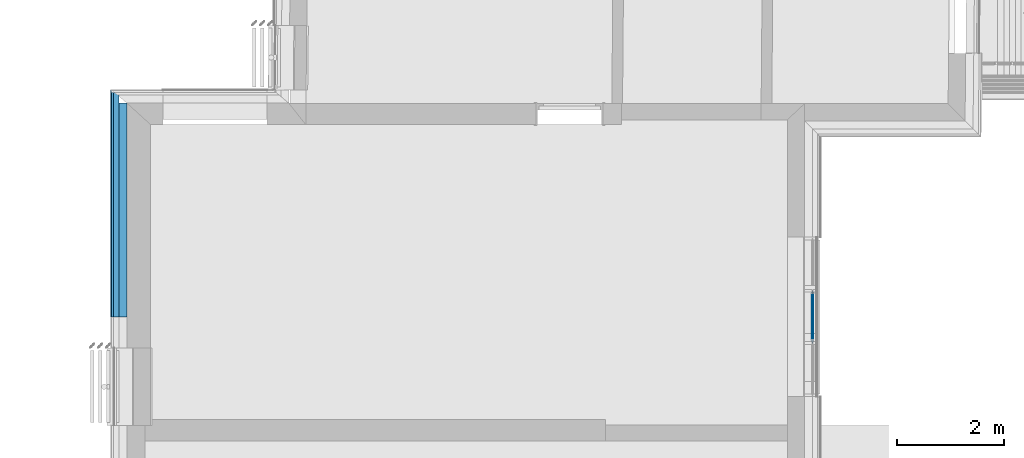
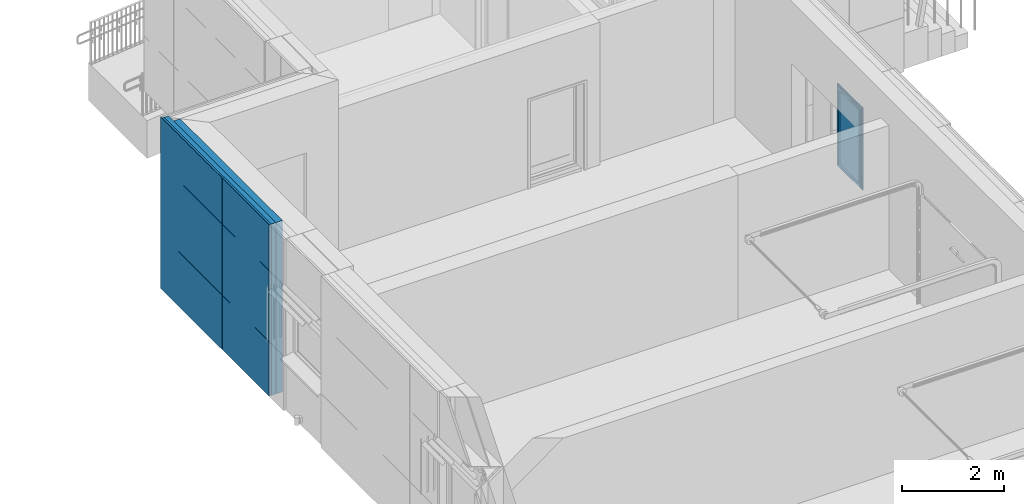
# One storey, part 130 of 418: 6 building element parts, 8 openings, 3 elements without a shape of their own.
"""IFC2X3 building model written with IfcOpenShell, lengths in millimetres."""

from ifc_helpers import new_model, entity, si_unit, converted_unit, derived_unit, money_unit, direction, frame, origin_with_axes, place, context, subcontext, project, spatial, polyline, outline, extrude, boolean, faceted_brep, material, type_object, element, aggregate, save


model = new_model("IFC2X3")

# Units and contexts
model_context = context("Model", 3, precision=0.01, world=origin_with_axes(), true_north=direction((0.0, 1.0)))
body_context = subcontext(model_context, "Body", "Model", "MODEL_VIEW")
ifc_project = project(units=[si_unit("LENGTHUNIT", "METRE", prefix="MILLI"), si_unit("AREAUNIT", "SQUARE_METRE"), si_unit("VOLUMEUNIT", "CUBIC_METRE"), converted_unit("PLANEANGLEUNIT", "DEGREE", entity("IfcPlaneAngleMeasure", 0.0174532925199), si_unit("PLANEANGLEUNIT", "RADIAN"), dimensions=[0, 0, 0, 0, 0, 0, 0]), si_unit("SOLIDANGLEUNIT", "STERADIAN"), money_unit("EUR"), converted_unit("TIMEUNIT", "Year", entity("IfcTimeMeasure", 31556926.0), si_unit("TIMEUNIT", "SECOND"), dimensions=[0, 0, 1, 0, 0, 0, 0]), si_unit("MASSUNIT", "GRAM", prefix="KILO"), si_unit("THERMODYNAMICTEMPERATUREUNIT", "DEGREE_CELSIUS"), si_unit("LUMINOUSINTENSITYUNIT", "LUMEN"), si_unit("ENERGYUNIT", "JOULE", prefix="MEGA"), derived_unit("THERMALCONDUCTANCEUNIT", [(si_unit("POWERUNIT", "WATT"), 1), (si_unit("LENGTHUNIT", "METRE"), -1), (si_unit("THERMODYNAMICTEMPERATUREUNIT", "KELVIN"), -1)]), derived_unit("SPECIFICHEATCAPACITYUNIT", [(si_unit("ENERGYUNIT", "JOULE"), 1), (si_unit("MASSUNIT", "GRAM", prefix="KILO"), -1), (si_unit("THERMODYNAMICTEMPERATUREUNIT", "KELVIN"), -1)]), derived_unit("MASSDENSITYUNIT", [(si_unit("MASSUNIT", "GRAM", prefix="KILO"), 1), (si_unit("VOLUMEUNIT", "CUBIC_METRE"), -1)])], contexts=[model_context])

# Site, building, storey
site_placement = place(None, origin_with_axes())
site = spatial("IfcSite", under=ifc_project, at=site_placement, Name="Paldiski mnt 245/1, Tallinn, Harjumaa", CompositionType="COMPLEX")
building_placement = place(site_placement, origin_with_axes())
building = spatial("IfcBuilding", under=site, at=building_placement, Name="RKAS Hoone üldnimetus (kasutust iseloomustav) -> IFC Project Manager -> SOLIBRI", CompositionType="ELEMENT")
storey_placement = place(building_placement, origin_with_axes())
storey = spatial("IfcBuildingStorey", under=building, at=storey_placement, Name="Esimene korrus", CompositionType="ELEMENT", Elevation=0.0)

# Wall, openings, building element parts
wall_type = type_object("IfcWallType", Name="VS-03I_uuedkihid 300", PredefinedType="NOTDEFINED")
wall_placement = place(storey_placement, frame((-62730.0, 26151.1196988, 0.0), z_axis=(0.0, 0.0, 1.0), x_axis=(0.0, 1.0, 0.0)))
wall = element("IfcWall", 1, at=wall_placement, inside=storey, type_object=wall_type, Name="VS-03")
opening_1_placement = place(wall_placement, frame((628.211364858, 0.0, 0.0), z_axis=(0.0, 0.0, 1.0), x_axis=(1.0, 0.0, 0.0)))
element("IfcOpeningElement", 2, at=opening_1_placement, cuts=wall, Name="Cembrit fassaadiplaadi vuuk", context=body_context, shape_type="SweptSolid", body=[
    extrude(outline(polyline([(-4.0, 0.0), (4.0, 0.0), (4.0, 4090.0), (-4.0, 4090.0), (-4.0, 0.0)])), frame((0.0, 292.0, 0.0), z_axis=(0.0, 1.0, 0.0), x_axis=(-1.0, 0.0, 0.0)), (0.0, 0.0, 1.0), 308.0),
])
opening_2_placement = place(wall_placement, frame((1828.21136486, 0.0, 0.0), z_axis=(0.0, 0.0, 1.0), x_axis=(1.0, 0.0, 0.0)))
element("IfcOpeningElement", 3, at=opening_2_placement, cuts=wall, Name="Cembrit fassaadiplaadi vuuk", context=body_context, shape_type="SweptSolid", body=[
    extrude(outline(polyline([(-4.0, 0.0), (4.0, 0.0), (4.0, 4090.0), (-4.0, 4090.0), (-4.0, 0.0)])), frame((0.0, 292.0, 0.0), z_axis=(0.0, 1.0, 0.0), x_axis=(-1.0, 0.0, 0.0)), (0.0, 0.0, 1.0), 308.0),
])
opening_3_placement = place(wall_placement, frame((3028.21136486, 0.0, 0.0), z_axis=(0.0, 0.0, 1.0), x_axis=(1.0, 0.0, 0.0)))
element("IfcOpeningElement", 4, at=opening_3_placement, cuts=wall, Name="Cembrit fassaadiplaadi vuuk", context=body_context, shape_type="SweptSolid", body=[
    extrude(outline(polyline([(-4.0, 0.0), (4.0, 0.0), (4.0, 4090.0), (-4.0, 4090.0), (-4.0, 0.0)])), frame((0.0, 292.0, 0.0), z_axis=(0.0, 1.0, 0.0), x_axis=(-1.0, 0.0, 0.0)), (0.0, 0.0, 1.0), 308.0),
])
opening_4_placement = place(wall_placement, frame((1828.21136486, 0.0, 0.0), z_axis=(0.0, 0.0, 1.0), x_axis=(1.0, 0.0, 0.0)))
element("IfcOpeningElement", 5, at=opening_4_placement, cuts=wall, Name="Cembrit fassaadiplaadi vuuk", context=body_context, shape_type="SweptSolid", body=[
    extrude(outline(polyline([(-4.0, 0.0), (4.0, 0.0), (4.0, 4090.0), (-4.0, 4090.0), (-4.0, 0.0)])), frame((0.0, 292.0, 0.0), z_axis=(0.0, 1.0, 0.0), x_axis=(-1.0, 0.0, 0.0)), (0.0, 0.0, 1.0), 308.0),
])
opening_5_placement = place(wall_placement, frame((3028.21136486, 0.0, 0.0), z_axis=(0.0, 0.0, 1.0), x_axis=(1.0, 0.0, 0.0)))
element("IfcOpeningElement", 6, at=opening_5_placement, cuts=wall, Name="Cembrit fassaadiplaadi vuuk", context=body_context, shape_type="SweptSolid", body=[
    extrude(outline(polyline([(-4.0, 0.0), (4.0, 0.0), (4.0, 4090.0), (-4.0, 4090.0), (-4.0, 0.0)])), frame((0.0, 292.0, 0.0), z_axis=(0.0, 1.0, 0.0), x_axis=(-1.0, 0.0, 0.0)), (0.0, 0.0, 1.0), 308.0),
])
opening_6_placement = place(wall_placement, frame((628.211364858, 0.0, 0.0), z_axis=(0.0, 0.0, 1.0), x_axis=(1.0, 0.0, 0.0)))
element("IfcOpeningElement", 7, at=opening_6_placement, cuts=wall, Name="Cembrit fassaadiplaadi vuuk", context=body_context, shape_type="SweptSolid", body=[
    extrude(outline(polyline([(-4.0, 0.0), (4.0, 0.0), (4.0, 4090.0), (-4.0, 4090.0), (-4.0, 0.0)])), frame((0.0, 292.0, 0.0), z_axis=(0.0, 1.0, 0.0), x_axis=(-1.0, 0.0, 0.0)), (0.0, 0.0, 1.0), 308.0),
])
opening_7_placement = place(wall_placement, frame((1838.46019521, 0.0, 2990.0), z_axis=(0.0, 0.0, 1.0), x_axis=(1.0, 0.0, 0.0)))
element("IfcOpeningElement", 8, at=opening_7_placement, cuts=wall, Name="Cembrit fassaadiplaadi vuuk", context=body_context, shape_type="SweptSolid", body=[
    extrude(outline(polyline([(-2410.24883036, 0.0), (2410.24883036, 0.0), (2410.24883036, 8.0), (-2410.24883036, 8.0), (-2410.24883036, 0.0)])), frame((0.0, 292.0, 0.0), z_axis=(0.0, 1.0, 0.0), x_axis=(-1.0, 0.0, 0.0)), (0.0, 0.0, 1.0), 308.0),
])
opening_8_placement = place(wall_placement, frame((1838.46019521, 0.0, 1298.0), z_axis=(0.0, 0.0, 1.0), x_axis=(1.0, 0.0, 0.0)))
element("IfcOpeningElement", 9, at=opening_8_placement, cuts=wall, Name="Cembrit fassaadiplaadi vuuk", context=body_context, shape_type="SweptSolid", body=[
    extrude(outline(polyline([(-2410.24883036, 0.0), (2410.24883036, 0.0), (2410.24883036, 8.0), (-2410.24883036, 8.0), (-2410.24883036, 0.0)])), frame((0.0, 292.0, 0.0), z_axis=(0.0, 1.0, 0.0), x_axis=(-1.0, 0.0, 0.0)), (0.0, 0.0, 1.0), 308.0),
])
ifc_material_1 = material(Name="Cembrit_C020")
building_element_part_1_placement = place(wall_placement, origin_with_axes())
building_element_part_1 = element("IfcBuildingElementPart", 10, at=building_element_part_1_placement, material=ifc_material_1, Name="Cembrit_C020", context=body_context, shape_type="CSG", body=[
    boolean("DIFFERENCE", boolean("DIFFERENCE", boolean("DIFFERENCE", boolean("DIFFERENCE", extrude(outline(polyline([(0.0, 292.0), (4248.70902557, 292.0), (4248.70902557, 300.0), (0.0, 300.0), (0.0, 292.0)])), origin_with_axes(), (0.0, 0.0, 1.0), 4090.0), faceted_brep([(4240.70902557, 300.0, 4090.0), (4240.70902557, 292.0, 4090.0), (4248.70902557, 292.0, 4090.0), (4248.70902557, 300.0, 4090.0), (4240.70902557, 292.0, 0.0), (4240.70902557, 300.0, 0.0), (4248.70902557, 292.0, 0.0), (4248.70902557, 300.0, 0.0)], [[[0, 1, 2, 3]], [[4, 1, 0, 5]], [[1, 4, 6, 2]], [[2, 6, 7, 3]], [[5, 0, 3, 7]], [[4, 5, 7, 6]]])), faceted_brep([(4198.70902557, 292.0, 4090.0), (4198.70902557, 250.0, 4090.0), (4248.70902557, 250.0, 4090.0), (4248.70902557, 292.0, 4090.0), (4198.70902557, 250.0, 0.0), (4198.70902557, 292.0, 0.0), (4248.70902557, 250.0, 0.0), (4248.70902557, 292.0, 0.0)], [[[0, 1, 2, 3]], [[4, 1, 0, 5]], [[1, 4, 6, 2]], [[2, 6, 7, 3]], [[5, 0, 3, 7]], [[4, 5, 7, 6]]])), faceted_brep([(4198.70902557, 250.0, 4090.0), (4198.70902557, 150.0, 4090.0), (4248.70902557, 150.0, 4090.0), (4248.70902557, 250.0, 4090.0), (4198.70902557, 150.0, 0.0), (4198.70902557, 250.0, 0.0), (4248.70902557, 150.0, 0.0), (4248.70902557, 250.0, 0.0)], [[[0, 1, 2, 3]], [[4, 1, 0, 5]], [[1, 4, 6, 2]], [[2, 6, 7, 3]], [[5, 0, 3, 7]], [[4, 5, 7, 6]]])), faceted_brep([(3998.70902557, 150.0, 4090.0), (3998.70902557, 0.0, 4090.0), (4248.70902557, 0.0, 4090.0), (4248.70902557, 150.0, 4090.0), (3998.70902557, 0.0, 0.0), (3998.70902557, 150.0, 0.0), (4248.70902557, 0.0, 0.0), (4248.70902557, 150.0, 0.0)], [[[0, 1, 2, 3]], [[4, 1, 0, 5]], [[1, 4, 6, 2]], [[2, 6, 7, 3]], [[5, 0, 3, 7]], [[4, 5, 7, 6]]])),
])
ifc_material_2 = material(Name="VKR-06_Õhkvahe")
building_element_part_2_placement = place(wall_placement, origin_with_axes())
building_element_part_2 = element("IfcBuildingElementPart", 11, at=building_element_part_2_placement, material=ifc_material_2, Name="VKR-06_Õhkvahe", context=body_context, shape_type="CSG", body=[
    boolean("DIFFERENCE", boolean("DIFFERENCE", boolean("DIFFERENCE", boolean("DIFFERENCE", extrude(outline(polyline([(0.0, 250.0), (4248.70902557, 250.0), (4248.70902557, 292.0), (0.0, 292.0), (0.0, 250.0)])), origin_with_axes(), (0.0, 0.0, 1.0), 4090.0), faceted_brep([(4240.70902557, 300.0, 4090.0), (4240.70902557, 292.0, 4090.0), (4248.70902557, 292.0, 4090.0), (4248.70902557, 300.0, 4090.0), (4240.70902557, 292.0, 0.0), (4240.70902557, 300.0, 0.0), (4248.70902557, 292.0, 0.0), (4248.70902557, 300.0, 0.0)], [[[0, 1, 2, 3]], [[4, 1, 0, 5]], [[1, 4, 6, 2]], [[2, 6, 7, 3]], [[5, 0, 3, 7]], [[4, 5, 7, 6]]])), faceted_brep([(4198.70902557, 292.0, 4090.0), (4198.70902557, 250.0, 4090.0), (4248.70902557, 250.0, 4090.0), (4248.70902557, 292.0, 4090.0), (4198.70902557, 250.0, 0.0), (4198.70902557, 292.0, 0.0), (4248.70902557, 250.0, 0.0), (4248.70902557, 292.0, 0.0)], [[[0, 1, 2, 3]], [[4, 1, 0, 5]], [[1, 4, 6, 2]], [[2, 6, 7, 3]], [[5, 0, 3, 7]], [[4, 5, 7, 6]]])), faceted_brep([(4198.70902557, 250.0, 4090.0), (4198.70902557, 150.0, 4090.0), (4248.70902557, 150.0, 4090.0), (4248.70902557, 250.0, 4090.0), (4198.70902557, 150.0, 0.0), (4198.70902557, 250.0, 0.0), (4248.70902557, 150.0, 0.0), (4248.70902557, 250.0, 0.0)], [[[0, 1, 2, 3]], [[4, 1, 0, 5]], [[1, 4, 6, 2]], [[2, 6, 7, 3]], [[5, 0, 3, 7]], [[4, 5, 7, 6]]])), faceted_brep([(3998.70902557, 150.0, 4090.0), (3998.70902557, 0.0, 4090.0), (4248.70902557, 0.0, 4090.0), (4248.70902557, 150.0, 4090.0), (3998.70902557, 0.0, 0.0), (3998.70902557, 150.0, 0.0), (4248.70902557, 0.0, 0.0), (4248.70902557, 150.0, 0.0)], [[[0, 1, 2, 3]], [[4, 1, 0, 5]], [[1, 4, 6, 2]], [[2, 6, 7, 3]], [[5, 0, 3, 7]], [[4, 5, 7, 6]]])),
])
ifc_material_3 = material(Name="Kingspan Kooltherm")
building_element_part_3_placement = place(wall_placement, origin_with_axes())
building_element_part_3 = element("IfcBuildingElementPart", 12, at=building_element_part_3_placement, material=ifc_material_3, Name="Kingspan Kooltherm", context=body_context, shape_type="CSG", body=[
    boolean("DIFFERENCE", boolean("DIFFERENCE", boolean("DIFFERENCE", boolean("DIFFERENCE", extrude(outline(polyline([(0.0, 150.0), (4248.70902557, 150.0), (4248.70902557, 250.0), (0.0, 250.0), (0.0, 150.0)])), origin_with_axes(), (0.0, 0.0, 1.0), 4090.0), faceted_brep([(4240.70902557, 300.0, 4090.0), (4240.70902557, 292.0, 4090.0), (4248.70902557, 292.0, 4090.0), (4248.70902557, 300.0, 4090.0), (4240.70902557, 292.0, 0.0), (4240.70902557, 300.0, 0.0), (4248.70902557, 292.0, 0.0), (4248.70902557, 300.0, 0.0)], [[[0, 1, 2, 3]], [[4, 1, 0, 5]], [[1, 4, 6, 2]], [[2, 6, 7, 3]], [[5, 0, 3, 7]], [[4, 5, 7, 6]]])), faceted_brep([(4198.70902557, 292.0, 4090.0), (4198.70902557, 250.0, 4090.0), (4248.70902557, 250.0, 4090.0), (4248.70902557, 292.0, 4090.0), (4198.70902557, 250.0, 0.0), (4198.70902557, 292.0, 0.0), (4248.70902557, 250.0, 0.0), (4248.70902557, 292.0, 0.0)], [[[0, 1, 2, 3]], [[4, 1, 0, 5]], [[1, 4, 6, 2]], [[2, 6, 7, 3]], [[5, 0, 3, 7]], [[4, 5, 7, 6]]])), faceted_brep([(4198.70902557, 250.0, 4090.0), (4198.70902557, 150.0, 4090.0), (4248.70902557, 150.0, 4090.0), (4248.70902557, 250.0, 4090.0), (4198.70902557, 150.0, 0.0), (4198.70902557, 250.0, 0.0), (4248.70902557, 150.0, 0.0), (4248.70902557, 250.0, 0.0)], [[[0, 1, 2, 3]], [[4, 1, 0, 5]], [[1, 4, 6, 2]], [[2, 6, 7, 3]], [[5, 0, 3, 7]], [[4, 5, 7, 6]]])), faceted_brep([(3998.70902557, 150.0, 4090.0), (3998.70902557, 0.0, 4090.0), (4248.70902557, 0.0, 4090.0), (4248.70902557, 150.0, 4090.0), (3998.70902557, 0.0, 0.0), (3998.70902557, 150.0, 0.0), (4248.70902557, 0.0, 0.0), (4248.70902557, 150.0, 0.0)], [[[0, 1, 2, 3]], [[4, 1, 0, 5]], [[1, 4, 6, 2]], [[2, 6, 7, 3]], [[5, 0, 3, 7]], [[4, 5, 7, 6]]])),
])
building_element_part_4_placement = place(wall_placement, origin_with_axes())
building_element_part_4 = element("IfcBuildingElementPart", 13, at=building_element_part_4_placement, material=ifc_material_3, Name="Kingspan Kooltherm", context=body_context, shape_type="CSG", body=[
    boolean("DIFFERENCE", boolean("DIFFERENCE", boolean("DIFFERENCE", boolean("DIFFERENCE", extrude(outline(polyline([(0.0, 0.0), (4248.70902557, 0.0), (4248.70902557, 150.0), (0.0, 150.0), (0.0, 0.0)])), origin_with_axes(), (0.0, 0.0, 1.0), 4090.0), faceted_brep([(4240.70902557, 300.0, 4090.0), (4240.70902557, 292.0, 4090.0), (4248.70902557, 292.0, 4090.0), (4248.70902557, 300.0, 4090.0), (4240.70902557, 292.0, 0.0), (4240.70902557, 300.0, 0.0), (4248.70902557, 292.0, 0.0), (4248.70902557, 300.0, 0.0)], [[[0, 1, 2, 3]], [[4, 1, 0, 5]], [[1, 4, 6, 2]], [[2, 6, 7, 3]], [[5, 0, 3, 7]], [[4, 5, 7, 6]]])), faceted_brep([(4198.70902557, 292.0, 4090.0), (4198.70902557, 250.0, 4090.0), (4248.70902557, 250.0, 4090.0), (4248.70902557, 292.0, 4090.0), (4198.70902557, 250.0, 0.0), (4198.70902557, 292.0, 0.0), (4248.70902557, 250.0, 0.0), (4248.70902557, 292.0, 0.0)], [[[0, 1, 2, 3]], [[4, 1, 0, 5]], [[1, 4, 6, 2]], [[2, 6, 7, 3]], [[5, 0, 3, 7]], [[4, 5, 7, 6]]])), faceted_brep([(4198.70902557, 250.0, 4090.0), (4198.70902557, 150.0, 4090.0), (4248.70902557, 150.0, 4090.0), (4248.70902557, 250.0, 4090.0), (4198.70902557, 150.0, 0.0), (4198.70902557, 250.0, 0.0), (4248.70902557, 150.0, 0.0), (4248.70902557, 250.0, 0.0)], [[[0, 1, 2, 3]], [[4, 1, 0, 5]], [[1, 4, 6, 2]], [[2, 6, 7, 3]], [[5, 0, 3, 7]], [[4, 5, 7, 6]]])), faceted_brep([(3998.70902557, 150.0, 4090.0), (3998.70902557, 0.0, 4090.0), (4248.70902557, 0.0, 4090.0), (4248.70902557, 150.0, 4090.0), (3998.70902557, 0.0, 0.0), (3998.70902557, 150.0, 0.0), (4248.70902557, 0.0, 0.0), (4248.70902557, 150.0, 0.0)], [[[0, 1, 2, 3]], [[4, 1, 0, 5]], [[1, 4, 6, 2]], [[2, 6, 7, 3]], [[5, 0, 3, 7]], [[4, 5, 7, 6]]])),
])
aggregate(wall, [building_element_part_1, building_element_part_2, building_element_part_3, building_element_part_4])

# Curtain wall, plate, building element parts
curtain_wall_type = type_object("IfcCurtainWallType", Name="Curtain Wall Type", PredefinedType="NOTDEFINED")
curtain_wall_placement = place(storey_placement, frame((-49920.0000069, 26094.8964638, 622.996891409), z_axis=(0.0, 0.0, 1.0), x_axis=(1.0, 0.0, 0.0)))
curtain_wall = element("IfcCurtainWall", 14, at=curtain_wall_placement, inside=storey, type_object=curtain_wall_type, Name="KLF-01")
plate_type = type_object("IfcPlateType", Name="800 x 5 x 20", PredefinedType="CURTAIN_PANEL")
plate_placement = place(curtain_wall_placement, frame((0.0, 0.0, 1116.40219677), z_axis=(0.0, 0.0, 1.0), x_axis=(0.0, 1.0, 0.0)))
plate = element("IfcPlate", 15, at=plate_placement, type_object=plate_type, Name="RF PANEEL PEAMINE-029", ObjectType="CURTAIN_PANEL")
aggregate(curtain_wall, [plate])
ifc_material_4 = material(Name="RAL7016")
building_element_part_5_placement = place(plate_placement, origin_with_axes())
building_element_part_5 = element("IfcBuildingElementPart", 16, at=building_element_part_5_placement, material=ifc_material_4, Name="RAL7016", context=body_context, shape_type="Brep", body=[
    faceted_brep([(526.932181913, -20.0, -1091.40221489), (526.932181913, -25.0, -1091.40221489), (-402.898253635, -25.0, -1091.40221489), (-402.898253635, -20.0, -1091.40221489), (481.932181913, -20.0, -1046.40221489), (481.932181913, -25.0, -1046.40221489), (-357.898253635, -25.0, -1046.40221489), (-357.898253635, -20.0, -1046.40221489)], [[[0, 1, 2, 3]], [[4, 5, 1, 0]], [[1, 5, 6, 2]], [[3, 2, 6, 7]], [[0, 3, 7, 4]], [[7, 6, 5, 4]]]),
    faceted_brep([(-402.898253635, -20.0, -1091.40221489), (-402.898253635, -25.0, -1091.40221489), (-402.898253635, -25.0, 810.600983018), (-402.898253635, -20.0, 810.600983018), (-357.898253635, -20.0, -1046.40221489), (-357.898253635, -25.0, -1046.40221489), (-357.898253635, -25.0, 765.600983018), (-357.898253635, -20.0, 765.600983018)], [[[0, 1, 2, 3]], [[4, 5, 1, 0]], [[1, 5, 6, 2]], [[3, 2, 6, 7]], [[0, 3, 7, 4]], [[7, 6, 5, 4]]]),
    faceted_brep([(526.932181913, -20.0, 810.600983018), (526.932181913, -25.0, 810.600983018), (481.932181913, -25.0, 765.600983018), (481.932181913, -20.0, 765.600983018), (-402.898253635, -20.0, 810.600983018), (-402.898253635, -25.0, 810.600983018), (-357.898253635, -25.0, 765.600983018), (-357.898253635, -20.0, 765.600983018)], [[[0, 1, 2, 3]], [[4, 5, 1, 0]], [[1, 5, 6, 2]], [[3, 2, 6, 7]], [[0, 3, 7, 4]], [[7, 6, 5, 4]]]),
    faceted_brep([(526.932181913, -20.0, -1091.40221489), (526.932181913, -25.0, -1091.40221489), (481.932181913, -25.0, -1046.40221489), (481.932181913, -20.0, -1046.40221489), (526.932181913, -20.0, 810.600983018), (526.932181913, -25.0, 810.600983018), (481.932181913, -25.0, 765.600983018), (481.932181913, -20.0, 765.600983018)], [[[0, 1, 2, 3]], [[4, 5, 1, 0]], [[1, 5, 6, 2]], [[3, 2, 6, 7]], [[0, 3, 7, 4]], [[7, 6, 5, 4]]]),
    faceted_brep([(526.932181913, 30.0, -1091.40221489), (526.932181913, -20.0, -1091.40221489), (-402.898253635, -20.0, -1091.40221489), (-402.898253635, 30.0, -1091.40221489), (506.932181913, 30.0, -1071.40221489), (506.932181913, -20.0, -1071.40221489), (-382.898253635, -20.0, -1071.40221489), (-382.898253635, 30.0, -1071.40221489)], [[[0, 1, 2, 3]], [[4, 5, 1, 0]], [[1, 5, 6, 2]], [[3, 2, 6, 7]], [[0, 3, 7, 4]], [[7, 6, 5, 4]]]),
    faceted_brep([(-402.898253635, 30.0, -1091.40221489), (-402.898253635, -20.0, -1091.40221489), (-402.898253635, -20.0, 810.600983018), (-402.898253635, 30.0, 810.600983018), (-382.898253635, 30.0, -1071.40221489), (-382.898253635, -20.0, -1071.40221489), (-382.898253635, -20.0, 790.600983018), (-382.898253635, 30.0, 790.600983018)], [[[0, 1, 2, 3]], [[4, 5, 1, 0]], [[1, 5, 6, 2]], [[3, 2, 6, 7]], [[0, 3, 7, 4]], [[7, 6, 5, 4]]]),
    faceted_brep([(526.932181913, 30.0, 810.600983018), (526.932181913, -20.0, 810.600983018), (506.932181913, -20.0, 790.600983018), (506.932181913, 30.0, 790.600983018), (-402.898253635, 30.0, 810.600983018), (-402.898253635, -20.0, 810.600983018), (-382.898253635, -20.0, 790.600983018), (-382.898253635, 30.0, 790.600983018)], [[[0, 1, 2, 3]], [[4, 5, 1, 0]], [[1, 5, 6, 2]], [[3, 2, 6, 7]], [[0, 3, 7, 4]], [[7, 6, 5, 4]]]),
    faceted_brep([(526.932181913, 30.0, -1091.40221489), (526.932181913, -20.0, -1091.40221489), (506.932181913, -20.0, -1071.40221489), (506.932181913, 30.0, -1071.40221489), (526.932181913, 30.0, 810.600983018), (526.932181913, -20.0, 810.600983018), (506.932181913, -20.0, 790.600983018), (506.932181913, 30.0, 790.600983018)], [[[0, 1, 2, 3]], [[4, 5, 1, 0]], [[1, 5, 6, 2]], [[3, 2, 6, 7]], [[0, 3, 7, 4]], [[7, 6, 5, 4]]]),
    faceted_brep([(556.932173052, 10.0, -1121.40220603), (556.932173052, -10.0, -1121.40220603), (-432.898238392, -10.0, -1121.40220603), (-432.898238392, 10.0, -1121.40220603), (526.932181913, 10.0, -1091.40221489), (526.932181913, -10.0, -1091.40221489), (-402.898253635, -10.0, -1091.40221489), (-402.898253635, 10.0, -1091.40221489)], [[[0, 1, 2, 3]], [[4, 5, 1, 0]], [[1, 5, 6, 2]], [[3, 2, 6, 7]], [[0, 3, 7, 4]], [[7, 6, 5, 4]]]),
    faceted_brep([(-432.898238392, 10.0, -1121.40220603), (-432.898238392, -10.0, -1121.40220603), (-432.898238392, -10.0, 840.600974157), (-432.898238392, 10.0, 840.600974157), (-402.898253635, 10.0, -1091.40221489), (-402.898253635, -10.0, -1091.40221489), (-402.898253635, -10.0, 810.600983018), (-402.898253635, 10.0, 810.600983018)], [[[0, 1, 2, 3]], [[4, 5, 1, 0]], [[1, 5, 6, 2]], [[3, 2, 6, 7]], [[0, 3, 7, 4]], [[7, 6, 5, 4]]]),
    faceted_brep([(-432.898238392, 10.0, 840.600974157), (-432.898238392, -10.0, 840.600974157), (556.932173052, -10.0, 840.600974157), (556.932173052, 10.0, 840.600974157), (-402.898253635, 10.0, 810.600983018), (-402.898253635, -10.0, 810.600983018), (526.932181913, -10.0, 810.600983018), (526.932181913, 10.0, 810.600983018)], [[[0, 1, 2, 3]], [[4, 5, 1, 0]], [[1, 5, 6, 2]], [[3, 2, 6, 7]], [[0, 3, 7, 4]], [[7, 6, 5, 4]]]),
    faceted_brep([(556.932173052, 10.0, 840.600974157), (556.932173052, -10.0, 840.600974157), (556.932173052, -10.0, -1121.40220603), (556.932173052, 10.0, -1121.40220603), (526.932181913, 10.0, 810.600983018), (526.932181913, -10.0, 810.600983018), (526.932181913, -10.0, -1091.40221489), (526.932181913, 10.0, -1091.40221489)], [[[0, 1, 2, 3]], [[4, 5, 1, 0]], [[1, 5, 6, 2]], [[3, 2, 6, 7]], [[0, 3, 7, 4]], [[7, 6, 5, 4]]]),
    faceted_brep([(461.932181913, -20.0, -1026.40221489), (461.932181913, -20.0, 745.600983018), (461.932181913, 35.0, 745.600983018), (461.932181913, 35.0, -1026.40221489), (506.932181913, -20.0, -1071.40221489), (506.932181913, -20.0, 790.600983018), (506.932181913, 35.0, 790.600983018), (506.932181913, 35.0, -1071.40221489)], [[[0, 1, 2, 3]], [[0, 4, 5, 1]], [[1, 5, 6, 2]], [[3, 2, 6, 7]], [[4, 0, 3, 7]], [[5, 4, 7, 6]]]),
    faceted_brep([(-382.898253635, -20.0, -1071.40221489), (-382.898253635, -20.0, 790.600983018), (-382.898253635, 35.0, 790.600983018), (-382.898253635, 35.0, -1071.40221489), (-337.898253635, -20.0, -1026.40221489), (-337.898253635, -20.0, 745.600983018), (-337.898253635, 35.0, 745.600983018), (-337.898253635, 35.0, -1026.40221489)], [[[0, 1, 2, 3]], [[0, 4, 5, 1]], [[1, 5, 6, 2]], [[3, 2, 6, 7]], [[4, 0, 3, 7]], [[5, 4, 7, 6]]]),
    faceted_brep([(-382.898253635, -20.0, -1071.40221489), (-337.898253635, -20.0, -1026.40221489), (-337.898253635, 35.0, -1026.40221489), (-382.898253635, 35.0, -1071.40221489), (506.932181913, -20.0, -1071.40221489), (461.932181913, -20.0, -1026.40221489), (461.932181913, 35.0, -1026.40221489), (506.932181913, 35.0, -1071.40221489)], [[[0, 1, 2, 3]], [[0, 4, 5, 1]], [[1, 5, 6, 2]], [[3, 2, 6, 7]], [[4, 0, 3, 7]], [[5, 4, 7, 6]]]),
    faceted_brep([(506.932181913, -20.0, 790.600983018), (461.932181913, -20.0, 745.600983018), (461.932181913, 35.0, 745.600983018), (506.932181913, 35.0, 790.600983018), (-382.898253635, -20.0, 790.600983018), (-337.898253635, -20.0, 745.600983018), (-337.898253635, 35.0, 745.600983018), (-382.898253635, 35.0, 790.600983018)], [[[0, 1, 2, 3]], [[0, 4, 5, 1]], [[1, 5, 6, 2]], [[3, 2, 6, 7]], [[4, 0, 3, 7]], [[5, 4, 7, 6]]]),
])
ifc_material_5 = material(Name="VKR-05_Klaas")
building_element_part_6_placement = place(plate_placement, origin_with_axes())
building_element_part_6 = element("IfcBuildingElementPart", 17, at=building_element_part_6_placement, material=ifc_material_5, Name="VKR-05_Klaas", context=body_context, shape_type="Brep", body=[
    faceted_brep([(461.932181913, -10.0, -1026.40221489), (-337.898253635, -10.0, -1026.40221489), (-337.898253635, 5.99999999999, -1026.40221489), (461.932181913, 6.0, -1026.40221489), (461.932181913, -10.0, 745.600983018), (-337.898253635, -10.0, 745.600983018), (-337.898253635, 5.99999999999, 745.600983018), (461.932181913, 6.0, 745.600983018)], [[[0, 1, 2, 3]], [[0, 4, 5, 1]], [[1, 5, 6, 2]], [[3, 2, 6, 7]], [[4, 0, 3, 7]], [[5, 4, 7, 6]]]),
])
aggregate(plate, [building_element_part_5, building_element_part_6])

save(model, "model.ifc")
